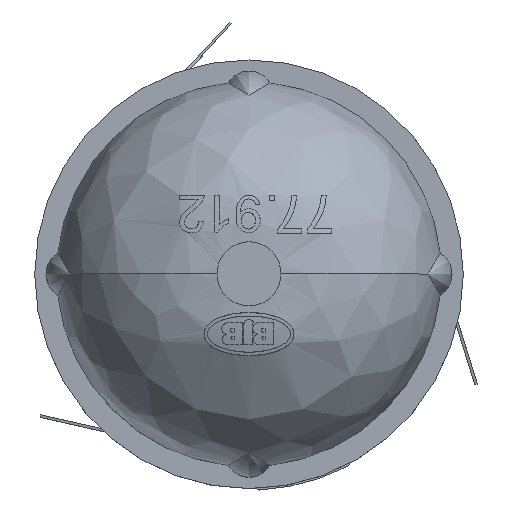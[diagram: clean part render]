
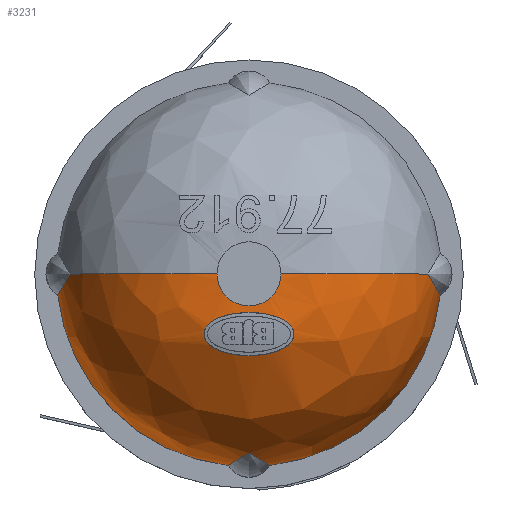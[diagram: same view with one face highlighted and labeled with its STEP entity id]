
A CAD part, top view. The second image highlights one B-rep face of the part: STEP entity #3231.
In plain terms, the highlighted free-form (B-spline) face has degree [2, 2] with [3, 5] control points.
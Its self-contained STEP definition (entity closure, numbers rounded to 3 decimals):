
#311=CARTESIAN_POINT(' ',(-3.,0.002,21.5));
#316=DIRECTION(' ',(0.,-1.,0.));
#321=DIRECTION(' ',(0.,0.,1.));
#326=AXIS2_PLACEMENT_3D(' ',#311,#316,#321);
#331=CIRCLE('',#326,15.);
#336=CARTESIAN_POINT(' ',(-3.,0.,36.5));
#337=VERTEX_POINT(' ',#336);
#341=CARTESIAN_POINT(' ',(-16.747,0.,27.501));
#342=VERTEX_POINT(' ',#341);
#346=EDGE_CURVE(' ',#337,#342,#331,.T.);
#581=CARTESIAN_POINT(' ',(16.747,0.,27.501));
#582=VERTEX_POINT(' ',#581);
#596=CARTESIAN_POINT(' ',(3.,0.,21.5));
#601=DIRECTION(' ',(0.,1.,0.));
#606=DIRECTION(' ',(0.,0.,1.));
#611=AXIS2_PLACEMENT_3D(' ',#596,#601,#606);
#616=CIRCLE('',#611,15.);
#621=CARTESIAN_POINT(' ',(3.,0.,36.5));
#622=VERTEX_POINT(' ',#621);
#626=EDGE_CURVE(' ',#622,#582,#616,.T.);
#2631=CARTESIAN_POINT(' ',(3.,0.,36.5));
#2636=CARTESIAN_POINT(' ',(3.,3.,36.5));
#2641=CARTESIAN_POINT(' ',(0.,3.,36.5));
#2646=CARTESIAN_POINT(' ',(-3.,3.,36.5));
#2651=CARTESIAN_POINT(' ',(-3.,0.,36.5));
#2656=CARTESIAN_POINT(' ',(18.,0.,36.5));
#2661=CARTESIAN_POINT(' ',(18.,18.001,36.5));
#2666=CARTESIAN_POINT(' ',(-0.001,18.,36.5));
#2671=CARTESIAN_POINT(' ',(-18.002,17.999,36.5));
#2676=CARTESIAN_POINT(' ',(-18.,-0.002,36.5));
#2681=CARTESIAN_POINT(' ',(18.,0.,21.5));
#2686=CARTESIAN_POINT(' ',(18.,18.001,21.5));
#2691=CARTESIAN_POINT(' ',(-0.001,18.,21.5));
#2696=CARTESIAN_POINT(' ',(-18.002,17.999,21.5));
#2701=CARTESIAN_POINT(' ',(-18.,-0.002,21.5));
#2706=(BOUNDED_SURFACE()B_SPLINE_SURFACE(2,2,((#2631,#2636,#2641,#2646,#2651),(#2656,#2661,#2666,#2671,#2676),(#2681,#2686,#2691,#2696,#2701)),.UNSPECIFIED.,.F.,.F.,.U.)B_SPLINE_SURFACE_WITH_KNOTS((3,3),(3,2,3),(0.,1.),(0.,0.5,1.),.UNSPECIFIED.)GEOMETRIC_REPRESENTATION_ITEM()RATIONAL_B_SPLINE_SURFACE(((1.,0.707,1.,0.707,1.),(0.707,0.5,0.707,0.5,0.707),(1.,0.707,1.,0.707,1.)))REPRESENTATION_ITEM(' ')SURFACE());
#2711=ORIENTED_EDGE(' ',*,*,#346,.F.);
#2716=CARTESIAN_POINT(' ',(0.,0.,36.5));
#2721=DIRECTION(' ',(0.,0.,1.));
#2726=DIRECTION(' ',(1.,0.,0.));
#2731=AXIS2_PLACEMENT_3D(' ',#2716,#2721,#2726);
#2736=CIRCLE('',#2731,3.);
#2741=EDGE_CURVE(' ',#622,#337,#2736,.T.);
#2746=ORIENTED_EDGE(' ',*,*,#2741,.F.);
#2751=ORIENTED_EDGE(' ',*,*,#626,.T.);
#2756=CARTESIAN_POINT(' ',(13.306,-5.94,21.501));
#2761=DIRECTION(' ',(0.864,-0.503,0.003));
#2766=DIRECTION(' ',(0.503,0.864,0.));
#2771=AXIS2_PLACEMENT_3D(' ',#2756,#2761,#2766);
#2776=CIRCLE('',#2771,9.117);
#2781=CARTESIAN_POINT(' ',(17.895,1.938,21.5));
#2782=VERTEX_POINT(' ',#2781);
#2786=EDGE_CURVE(' ',#2782,#582,#2776,.T.);
#2791=ORIENTED_EDGE(' ',*,*,#2786,.F.);
#2796=CARTESIAN_POINT(' ',(0.,0.,21.5));
#2801=DIRECTION(' ',(0.,0.,1.));
#2806=DIRECTION(' ',(0.994,0.108,0.));
#2811=AXIS2_PLACEMENT_3D(' ',#2796,#2801,#2806);
#2816=CIRCLE('',#2811,18.);
#2821=CARTESIAN_POINT(' ',(1.938,17.895,21.5));
#2822=VERTEX_POINT(' ',#2821);
#2826=EDGE_CURVE(' ',#2782,#2822,#2816,.T.);
#2831=ORIENTED_EDGE(' ',*,*,#2826,.T.);
#2836=CARTESIAN_POINT(' ',(-5.944,13.32,21.502));
#2841=DIRECTION(' ',(-0.502,0.865,0.003));
#2846=DIRECTION(' ',(0.652,0.376,0.658));
#2851=AXIS2_PLACEMENT_3D(' ',#2836,#2841,#2846);
#2856=CIRCLE('',#2851,9.114);
#2861=CARTESIAN_POINT(' ',(0.,16.747,27.501));
#2862=VERTEX_POINT(' ',#2861);
#2866=EDGE_CURVE(' ',#2862,#2822,#2856,.T.);
#2871=ORIENTED_EDGE(' ',*,*,#2866,.F.);
#2876=CARTESIAN_POINT(' ',(5.94,13.306,21.501));
#2881=DIRECTION(' ',(0.503,0.864,0.003));
#2886=DIRECTION(' ',(-0.864,0.503,0.));
#2891=AXIS2_PLACEMENT_3D(' ',#2876,#2881,#2886);
#2896=CIRCLE('',#2891,9.117);
#2901=CARTESIAN_POINT(' ',(-1.938,17.895,21.5));
#2902=VERTEX_POINT(' ',#2901);
#2906=EDGE_CURVE(' ',#2902,#2862,#2896,.T.);
#2911=ORIENTED_EDGE(' ',*,*,#2906,.F.);
#2916=CARTESIAN_POINT(' ',(0.,0.,21.5));
#2921=DIRECTION(' ',(-0.,0.,1.));
#2926=DIRECTION(' ',(-0.108,0.994,0.));
#2931=AXIS2_PLACEMENT_3D(' ',#2916,#2921,#2926);
#2936=CIRCLE('',#2931,18.);
#2941=CARTESIAN_POINT(' ',(-17.895,1.938,21.5));
#2942=VERTEX_POINT(' ',#2941);
#2946=EDGE_CURVE(' ',#2902,#2942,#2936,.T.);
#2951=ORIENTED_EDGE(' ',*,*,#2946,.T.);
#2956=CARTESIAN_POINT(' ',(-13.32,-5.944,21.502));
#2961=DIRECTION(' ',(-0.865,-0.502,0.003));
#2966=DIRECTION(' ',(-0.376,0.652,0.658));
#2971=AXIS2_PLACEMENT_3D(' ',#2956,#2961,#2966);
#2976=CIRCLE('',#2971,9.114);
#2981=EDGE_CURVE(' ',#342,#2942,#2976,.T.);
#2986=ORIENTED_EDGE(' ',*,*,#2981,.F.);
#2991=EDGE_LOOP(' ',(#2711,#2746,#2751,#2791,#2831,#2871,#2911,#2951,#2986));
#2996=FACE_OUTER_BOUND(' ',#2991,.T.);
#3001=CARTESIAN_POINT(' ',(0.,3.609,36.488));
#3006=CARTESIAN_POINT(' ',(-0.321,3.608,36.488));
#3011=CARTESIAN_POINT(' ',(-0.641,3.625,36.486));
#3016=CARTESIAN_POINT(' ',(-1.276,3.694,36.474));
#3021=CARTESIAN_POINT(' ',(-1.598,3.747,36.464));
#3026=CARTESIAN_POINT(' ',(-2.508,3.965,36.412));
#3031=CARTESIAN_POINT(' ',(-3.077,4.166,36.353));
#3036=CARTESIAN_POINT(' ',(-3.88,4.768,36.172));
#3041=CARTESIAN_POINT(' ',(-4.16,5.127,36.066));
#3046=CARTESIAN_POINT(' ',(-4.238,5.839,35.899));
#3051=CARTESIAN_POINT(' ',(-4.101,6.188,35.835));
#3056=CARTESIAN_POINT(' ',(-3.602,6.759,35.762));
#3061=CARTESIAN_POINT(' ',(-3.242,6.97,35.752));
#3066=CARTESIAN_POINT(' ',(-2.485,7.296,35.746));
#3071=CARTESIAN_POINT(' ',(-2.103,7.407,35.748));
#3076=CARTESIAN_POINT(' ',(-1.17,7.597,35.755));
#3081=CARTESIAN_POINT(' ',(-0.572,7.652,35.76));
#3086=CARTESIAN_POINT(' ',(0.,7.652,35.76));
#3091=B_SPLINE_CURVE_WITH_KNOTS('',3,(#3001,#3006,#3011,#3016,#3021,#3026,#3031,#3036,#3041,#3046,#3051,#3056,#3061,#3066,#3071,#3076,#3081,#3086),.UNSPECIFIED.,.F.,.U.,(4,2,2,2,2,2,2,2,4),(0.,0.1,0.2,0.373,0.493,0.593,0.713,0.833,1.),.UNSPECIFIED.);
#3096=CARTESIAN_POINT(' ',(0.,3.609,36.488));
#3097=VERTEX_POINT(' ',#3096);
#3101=CARTESIAN_POINT(' ',(0.,7.652,35.76));
#3102=VERTEX_POINT(' ',#3101);
#3106=EDGE_CURVE(' ',#3097,#3102,#3091,.T.);
#3111=ORIENTED_EDGE(' ',*,*,#3106,.T.);
#3116=CARTESIAN_POINT(' ',(0.,7.652,35.76));
#3121=CARTESIAN_POINT(' ',(0.335,7.652,35.76));
#3126=CARTESIAN_POINT(' ',(0.699,7.634,35.759));
#3131=CARTESIAN_POINT(' ',(1.42,7.549,35.754));
#3136=CARTESIAN_POINT(' ',(1.752,7.489,35.75));
#3141=CARTESIAN_POINT(' ',(2.442,7.303,35.747));
#3146=CARTESIAN_POINT(' ',(2.833,7.164,35.746));
#3151=CARTESIAN_POINT(' ',(3.564,6.778,35.763));
#3156=CARTESIAN_POINT(' ',(3.974,6.452,35.79));
#3161=CARTESIAN_POINT(' ',(4.228,5.772,35.915));
#3166=CARTESIAN_POINT(' ',(4.229,5.488,35.979));
#3171=CARTESIAN_POINT(' ',(3.939,4.73,36.175));
#3176=CARTESIAN_POINT(' ',(3.448,4.4,36.283));
#3181=CARTESIAN_POINT(' ',(2.447,3.936,36.42));
#3186=CARTESIAN_POINT(' ',(1.889,3.795,36.453));
#3191=CARTESIAN_POINT(' ',(0.905,3.643,36.484));
#3196=CARTESIAN_POINT(' ',(0.453,3.61,36.488));
#3201=CARTESIAN_POINT(' ',(0.,3.609,36.488));
#3206=B_SPLINE_CURVE_WITH_KNOTS('',3,(#3116,#3121,#3126,#3131,#3136,#3141,#3146,#3151,#3156,#3161,#3166,#3171,#3176,#3181,#3186,#3191,#3196,#3201),.UNSPECIFIED.,.F.,.U.,(4,2,2,2,2,2,2,2,4),(0.,0.1,0.2,0.3,0.438,0.518,0.684,0.857,1.),.UNSPECIFIED.);
#3211=EDGE_CURVE(' ',#3102,#3097,#3206,.T.);
#3216=ORIENTED_EDGE(' ',*,*,#3211,.T.);
#3221=EDGE_LOOP(' ',(#3111,#3216));
#3226=FACE_BOUND(' ',#3221,.T.);
#3231=ADVANCED_FACE('',(#2996,#3226),#2706,.T.);
